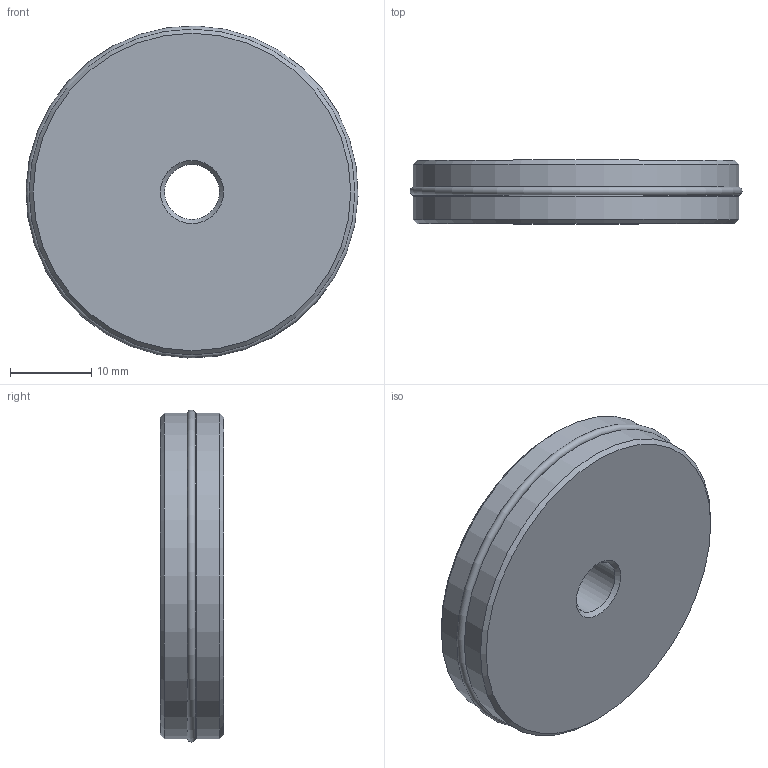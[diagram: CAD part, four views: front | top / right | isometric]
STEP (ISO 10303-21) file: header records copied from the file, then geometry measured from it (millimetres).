
FILE_DESCRIPTION(/* description */ (''),/* implementation_level */ '2;1');
FILE_NAME(/* name */ '\\dc01\daten\CAD\Standard\Daten\3D-Datenbank\ZS\step-Daten\G-ZS080-1.stp',/* time_stamp */ '2019-03-22T09:32:10+01:00',/* author */ ('ysplieth'),/* organization */ (''),/* preprocessor_version */ 'ST-DEVELOPER v17',/* originating_system */ 'Autodesk Inventor 2018',/* authorisation */ '');
FILE_SCHEMA (('AUTOMOTIVE_DESIGN { 1 0 10303 214 3 1 1 }'));
Length unit declared in the file: millimetre
Products named in the file (1): Bauteil1
Bounding box: 40.78 x 7.8 x 40.78 mm (x, y, z)
Volume: 9495 mm3; surface area: 4038.1 mm2
Topology: 2 solids, 2 shells, 13 faces, 29 edges, 20 vertices
Faces by surface type: cone 4, cylinder 4, plane 4, torus 1
Full cylindrical faces by diameter (mm): 6.75 x1, 38.8 x1, 40 x2
Entity records: 453 total; most frequent: DIRECTION 78, CARTESIAN_POINT 63, ORIENTED_EDGE 58, AXIS2_PLACEMENT_3D 35, EDGE_CURVE 29, CIRCLE 21, VERTEX_POINT 20, EDGE_LOOP 17
